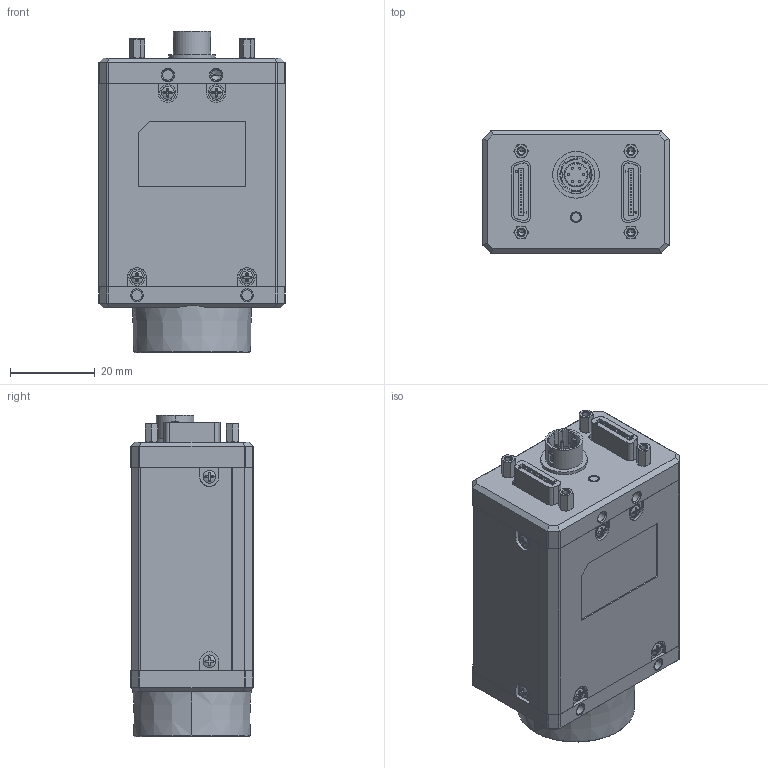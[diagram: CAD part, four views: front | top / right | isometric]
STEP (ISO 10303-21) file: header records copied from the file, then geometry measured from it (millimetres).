
FILE_DESCRIPTION((''),'2;1');
FILE_NAME('ASM0002_ASM','2023-03-28T19:15:00',('xueqinyuan'),(''),'CREO PARAMETRIC BY PTC INC, 2020044','CREO PARAMETRIC BY PTC INC, 2020044','');
FILE_SCHEMA(('CONFIG_CONTROL_DESIGN'));
Products named in the file (2): _MV-CH040-A0CM; ASM0002_ASM
Assembly tree (1 placements, depth 2):
  ASM0002_ASM
    _MV-CH040-A0CM
Bounding box: 44 x 29 x 75.88 mm (x, y, z)
Volume: 2226.5 mm3; surface area: 39914.5 mm2
Topology: 4 solids, 79 shells, 3482 faces, 9485 edges, 6004 vertices
Faces by surface type: plane 1628, cylinder 801, cone 524, bspline 274, torus 203, sphere 52
Entity records: 154232 total; most frequent: CARTESIAN_POINT 68439, ORIENTED_EDGE 18084, DIRECTION 17225, EDGE_CURVE 9463, AXIS2_PLACEMENT_3D 6069, VERTEX_POINT 6004, VECTOR 5087, LINE 5087
